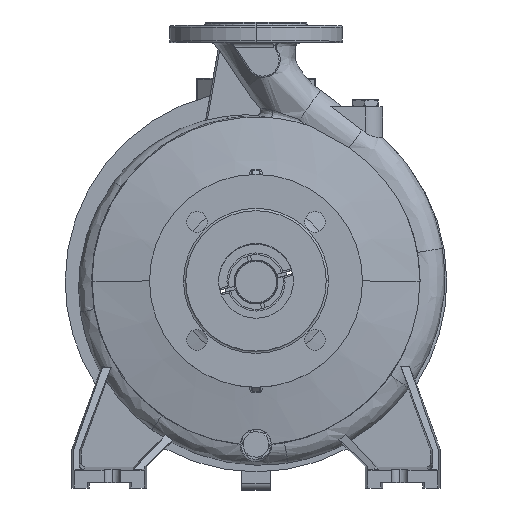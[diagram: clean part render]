
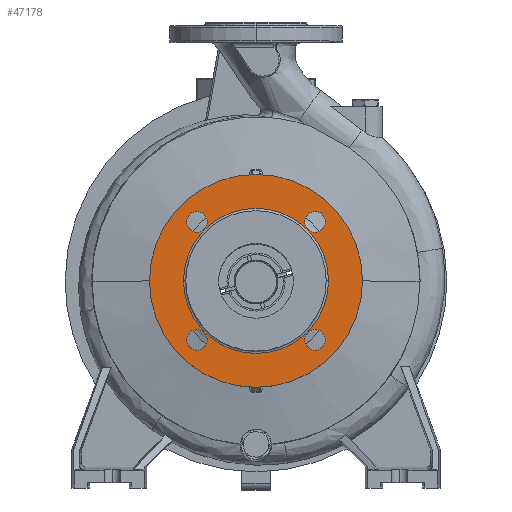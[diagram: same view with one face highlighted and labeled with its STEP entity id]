
A CAD part, top view. The second image highlights one B-rep face of the part: STEP entity #47178.
In plain terms, the highlighted planar face has unit normal (0, 0, 1).
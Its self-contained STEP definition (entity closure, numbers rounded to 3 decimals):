
#688 = CIRCLE ( 'NONE', #61771, 9. ) ;
#1480 = AXIS2_PLACEMENT_3D ( 'NONE', #72396, #63430, #20608 ) ;
#3676 = CARTESIAN_POINT ( 'NONE',  ( 42.265, -51.265, 339. ) ) ;
#5250 = ORIENTED_EDGE ( 'NONE', *, *, #66800, .F. ) ;
#7761 = AXIS2_PLACEMENT_3D ( 'NONE', #97566, #105468, #37302 ) ;
#9667 = AXIS2_PLACEMENT_3D ( 'NONE', #55903, #48561, #100355 ) ;
#10284 = DIRECTION ( 'NONE',  ( 1., 0., 0. ) ) ;
#10381 = PLANE ( 'NONE',  #53718 ) ;
#11796 = ORIENTED_EDGE ( 'NONE', *, *, #43755, .F. ) ;
#12199 = ORIENTED_EDGE ( 'NONE', *, *, #109718, .T. ) ;
#13647 = ORIENTED_EDGE ( 'NONE', *, *, #67235, .F. ) ;
#13715 = EDGE_LOOP ( 'NONE', ( #110068, #13647 ) ) ;
#15666 = FACE_BOUND ( 'NONE', #13715, .T. ) ;
#16227 = DIRECTION ( 'NONE',  ( -1., 0., 0. ) ) ;
#17479 = CARTESIAN_POINT ( 'NONE',  ( -51.265, 51.265, 339. ) ) ;
#20608 = DIRECTION ( 'NONE',  ( 1., 0., 0. ) ) ;
#21175 = DIRECTION ( 'NONE',  ( 0., 0., -1. ) ) ;
#21864 = EDGE_CURVE ( 'NONE', #34794, #95410, #83327, .T. ) ;
#22810 = VERTEX_POINT ( 'NONE', #23345 ) ;
#22887 = AXIS2_PLACEMENT_3D ( 'NONE', #98334, #21175, #38623 ) ;
#23345 = CARTESIAN_POINT ( 'NONE',  ( -63., 0., 339. ) ) ;
#24179 = EDGE_CURVE ( 'NONE', #32026, #89779, #58244, .T. ) ;
#26736 = DIRECTION ( 'NONE',  ( 0., 0., -1. ) ) ;
#26857 = VERTEX_POINT ( 'NONE', #3676 ) ;
#27339 = AXIS2_PLACEMENT_3D ( 'NONE', #66020, #100386, #57593 ) ;
#27562 = CIRCLE ( 'NONE', #76141, 63. ) ;
#27756 = CIRCLE ( 'NONE', #83560, 9. ) ;
#28342 = EDGE_LOOP ( 'NONE', ( #12199, #92835 ) ) ;
#29140 = ORIENTED_EDGE ( 'NONE', *, *, #75802, .F. ) ;
#29269 = EDGE_LOOP ( 'NONE', ( #67622, #68837 ) ) ;
#30739 = EDGE_LOOP ( 'NONE', ( #49578, #66205 ) ) ;
#32026 = VERTEX_POINT ( 'NONE', #53867 ) ;
#34794 = VERTEX_POINT ( 'NONE', #49055 ) ;
#37302 = DIRECTION ( 'NONE',  ( 1., 0., 0. ) ) ;
#38623 = DIRECTION ( 'NONE',  ( -1., 0., 0. ) ) ;
#38978 = CARTESIAN_POINT ( 'NONE',  ( -42.265, 51.265, 339. ) ) ;
#40872 = VERTEX_POINT ( 'NONE', #38978 ) ;
#42002 = DIRECTION ( 'NONE',  ( 0., 0., 1. ) ) ;
#43054 = CIRCLE ( 'NONE', #52055, 63. ) ;
#43404 = DIRECTION ( 'NONE',  ( 0., 0., 1. ) ) ;
#43511 = VERTEX_POINT ( 'NONE', #67578 ) ;
#43755 = EDGE_CURVE ( 'NONE', #95410, #34794, #83879, .T. ) ;
#44348 = DIRECTION ( 'NONE',  ( 0., 0., -1. ) ) ;
#45209 = DIRECTION ( 'NONE',  ( 0., 0., 1. ) ) ;
#45307 = FACE_BOUND ( 'NONE', #30739, .T. ) ;
#47178 = ADVANCED_FACE ( 'NONE', ( #68574, #92823, #45307, #15666, #110286, #62191 ), #10381, .F. ) ;
#48561 = DIRECTION ( 'NONE',  ( 0., 0., -1. ) ) ;
#49055 = CARTESIAN_POINT ( 'NONE',  ( -60.265, -51.265, 339. ) ) ;
#49324 = DIRECTION ( 'NONE',  ( 1., 0., 0. ) ) ;
#49578 = ORIENTED_EDGE ( 'NONE', *, *, #82811, .F. ) ;
#49907 = CARTESIAN_POINT ( 'NONE',  ( -51.265, 51.265, 339. ) ) ;
#51555 = DIRECTION ( 'NONE',  ( -1., 0., 0. ) ) ;
#51697 = CIRCLE ( 'NONE', #22887, 92.5 ) ;
#51963 = AXIS2_PLACEMENT_3D ( 'NONE', #49907, #42002, #92135 ) ;
#52055 = AXIS2_PLACEMENT_3D ( 'NONE', #79260, #44348, #61249 ) ;
#53010 = CIRCLE ( 'NONE', #70990, 9. ) ;
#53718 = AXIS2_PLACEMENT_3D ( 'NONE', #109741, #96547, #16227 ) ;
#53867 = CARTESIAN_POINT ( 'NONE',  ( 92.5, 0., 339. ) ) ;
#54090 = ORIENTED_EDGE ( 'NONE', *, *, #21864, .F. ) ;
#54384 = CARTESIAN_POINT ( 'NONE',  ( 60.265, 51.265, 339. ) ) ;
#55426 = CIRCLE ( 'NONE', #1480, 9. ) ;
#55903 = CARTESIAN_POINT ( 'NONE',  ( 0., 0., 339. ) ) ;
#57593 = DIRECTION ( 'NONE',  ( 1., 0., 0. ) ) ;
#58244 = CIRCLE ( 'NONE', #9667, 92.5 ) ;
#59717 = CARTESIAN_POINT ( 'NONE',  ( -42.265, -51.265, 339. ) ) ;
#59841 = VERTEX_POINT ( 'NONE', #84855 ) ;
#61249 = DIRECTION ( 'NONE',  ( -1., 0., 0. ) ) ;
#61771 = AXIS2_PLACEMENT_3D ( 'NONE', #91565, #90472, #49324 ) ;
#62191 = FACE_OUTER_BOUND ( 'NONE', #29269, .T. ) ;
#63430 = DIRECTION ( 'NONE',  ( 0., 0., 1. ) ) ;
#65211 = EDGE_LOOP ( 'NONE', ( #5250, #29140 ) ) ;
#65768 = EDGE_CURVE ( 'NONE', #26857, #98802, #688, .T. ) ;
#66020 = CARTESIAN_POINT ( 'NONE',  ( 51.265, -51.265, 339. ) ) ;
#66205 = ORIENTED_EDGE ( 'NONE', *, *, #65768, .F. ) ;
#66800 = EDGE_CURVE ( 'NONE', #40872, #43511, #27756, .T. ) ;
#67235 = EDGE_CURVE ( 'NONE', #59841, #105174, #53010, .T. ) ;
#67578 = CARTESIAN_POINT ( 'NONE',  ( -60.265, 51.265, 339. ) ) ;
#67622 = ORIENTED_EDGE ( 'NONE', *, *, #24179, .F. ) ;
#68574 = FACE_BOUND ( 'NONE', #65211, .T. ) ;
#68837 = ORIENTED_EDGE ( 'NONE', *, *, #93700, .F. ) ;
#70501 = CIRCLE ( 'NONE', #27339, 9. ) ;
#70990 = AXIS2_PLACEMENT_3D ( 'NONE', #79556, #45209, #10284 ) ;
#72396 = CARTESIAN_POINT ( 'NONE',  ( 51.265, 51.265, 339. ) ) ;
#73356 = CARTESIAN_POINT ( 'NONE',  ( 60.265, -51.265, 339. ) ) ;
#75802 = EDGE_CURVE ( 'NONE', #43511, #40872, #109536, .T. ) ;
#76141 = AXIS2_PLACEMENT_3D ( 'NONE', #104468, #26736, #51555 ) ;
#77731 = DIRECTION ( 'NONE',  ( 1., 0., 0. ) ) ;
#78299 = CARTESIAN_POINT ( 'NONE',  ( -92.5, 0., 339. ) ) ;
#79260 = CARTESIAN_POINT ( 'NONE',  ( 0., 0., 339. ) ) ;
#79556 = CARTESIAN_POINT ( 'NONE',  ( 51.265, 51.265, 339. ) ) ;
#82811 = EDGE_CURVE ( 'NONE', #98802, #26857, #70501, .T. ) ;
#83327 = CIRCLE ( 'NONE', #7761, 9. ) ;
#83560 = AXIS2_PLACEMENT_3D ( 'NONE', #17479, #43404, #77731 ) ;
#83879 = CIRCLE ( 'NONE', #98289, 9. ) ;
#84312 = EDGE_CURVE ( 'NONE', #105812, #22810, #27562, .T. ) ;
#84855 = CARTESIAN_POINT ( 'NONE',  ( 42.265, 51.265, 339. ) ) ;
#87308 = EDGE_LOOP ( 'NONE', ( #11796, #54090 ) ) ;
#88370 = DIRECTION ( 'NONE',  ( 0., 0., 1. ) ) ;
#89779 = VERTEX_POINT ( 'NONE', #78299 ) ;
#90047 = DIRECTION ( 'NONE',  ( 1., 0., 0. ) ) ;
#90472 = DIRECTION ( 'NONE',  ( 0., 0., 1. ) ) ;
#91565 = CARTESIAN_POINT ( 'NONE',  ( 51.265, -51.265, 339. ) ) ;
#92135 = DIRECTION ( 'NONE',  ( 1., 0., 0. ) ) ;
#92823 = FACE_BOUND ( 'NONE', #87308, .T. ) ;
#92835 = ORIENTED_EDGE ( 'NONE', *, *, #84312, .T. ) ;
#93615 = CARTESIAN_POINT ( 'NONE',  ( 63., 0., 339. ) ) ;
#93700 = EDGE_CURVE ( 'NONE', #89779, #32026, #51697, .T. ) ;
#95410 = VERTEX_POINT ( 'NONE', #59717 ) ;
#96547 = DIRECTION ( 'NONE',  ( 0., 0., -1. ) ) ;
#96804 = CARTESIAN_POINT ( 'NONE',  ( -51.265, -51.265, 339. ) ) ;
#97566 = CARTESIAN_POINT ( 'NONE',  ( -51.265, -51.265, 339. ) ) ;
#98289 = AXIS2_PLACEMENT_3D ( 'NONE', #96804, #88370, #90047 ) ;
#98334 = CARTESIAN_POINT ( 'NONE',  ( 0., 0., 339. ) ) ;
#98802 = VERTEX_POINT ( 'NONE', #73356 ) ;
#100355 = DIRECTION ( 'NONE',  ( -1., 0., 0. ) ) ;
#100386 = DIRECTION ( 'NONE',  ( 0., 0., 1. ) ) ;
#104468 = CARTESIAN_POINT ( 'NONE',  ( 0., 0., 339. ) ) ;
#105174 = VERTEX_POINT ( 'NONE', #54384 ) ;
#105468 = DIRECTION ( 'NONE',  ( 0., 0., 1. ) ) ;
#105812 = VERTEX_POINT ( 'NONE', #93615 ) ;
#107764 = EDGE_CURVE ( 'NONE', #105174, #59841, #55426, .T. ) ;
#109536 = CIRCLE ( 'NONE', #51963, 9. ) ;
#109718 = EDGE_CURVE ( 'NONE', #22810, #105812, #43054, .T. ) ;
#109741 = CARTESIAN_POINT ( 'NONE',  ( 63., 0., 339. ) ) ;
#110068 = ORIENTED_EDGE ( 'NONE', *, *, #107764, .F. ) ;
#110286 = FACE_BOUND ( 'NONE', #28342, .T. ) ;
